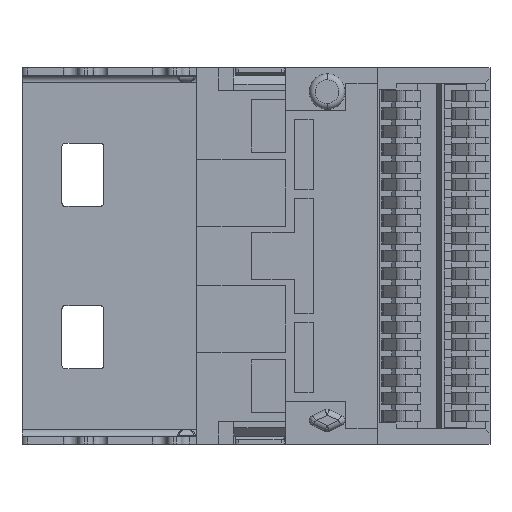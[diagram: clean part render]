
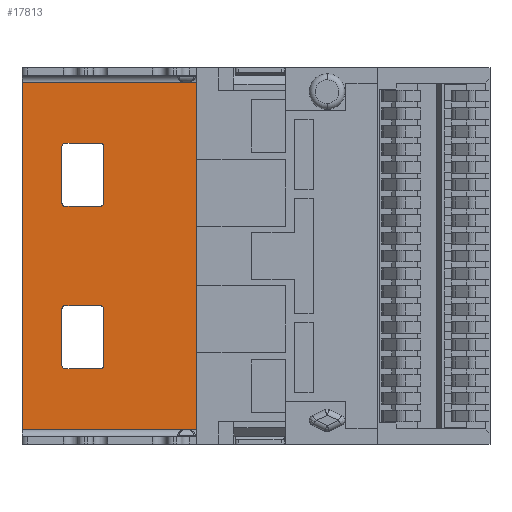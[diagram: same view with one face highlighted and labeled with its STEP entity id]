
A CAD part, front view. The second image highlights one B-rep face of the part: STEP entity #17813.
In plain terms, the highlighted planar face has unit normal (0, -1, 0).
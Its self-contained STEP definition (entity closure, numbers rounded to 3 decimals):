
#641=DIRECTION('',(0.,0.,1.));
#642=VECTOR('',#641,11.7);
#643=CARTESIAN_POINT('',(-5.9,6.35,-5.85));
#644=LINE('',#643,#642);
#645=CARTESIAN_POINT('',(-4.45,6.35,1.775));
#646=DIRECTION('',(0.,-1.,0.));
#647=DIRECTION('',(-1.,0.,0.));
#648=AXIS2_PLACEMENT_3D('',#645,#646,#647);
#650=CARTESIAN_POINT('',(-3.25,6.35,1.775));
#651=DIRECTION('',(0.,-1.,0.));
#652=DIRECTION('',(0.,0.,-1.));
#653=AXIS2_PLACEMENT_3D('',#650,#651,#652);
#655=CARTESIAN_POINT('',(-3.25,6.35,3.705));
#656=DIRECTION('',(0.,-1.,0.));
#657=DIRECTION('',(1.,0.,0.));
#658=AXIS2_PLACEMENT_3D('',#655,#656,#657);
#660=CARTESIAN_POINT('',(-4.45,6.35,3.705));
#661=DIRECTION('',(0.,-1.,0.));
#662=DIRECTION('',(0.,0.,1.));
#663=AXIS2_PLACEMENT_3D('',#660,#661,#662);
#665=CARTESIAN_POINT('',(-3.25,6.35,-1.775));
#666=DIRECTION('',(0.,-1.,0.));
#667=DIRECTION('',(1.,0.,0.));
#668=AXIS2_PLACEMENT_3D('',#665,#666,#667);
#670=CARTESIAN_POINT('',(-4.45,6.35,-1.775));
#671=DIRECTION('',(0.,-1.,0.));
#672=DIRECTION('',(0.,0.,1.));
#673=AXIS2_PLACEMENT_3D('',#670,#671,#672);
#675=CARTESIAN_POINT('',(-4.45,6.35,-3.705));
#676=DIRECTION('',(0.,-1.,0.));
#677=DIRECTION('',(-1.,0.,0.));
#678=AXIS2_PLACEMENT_3D('',#675,#676,#677);
#680=CARTESIAN_POINT('',(-3.25,6.35,-3.705));
#681=DIRECTION('',(0.,-1.,0.));
#682=DIRECTION('',(0.,0.,-1.));
#683=AXIS2_PLACEMENT_3D('',#680,#681,#682);
#721=DIRECTION('',(1.,0.,0.));
#722=VECTOR('',#721,6.05);
#723=CARTESIAN_POINT('',(-5.9,6.35,-5.85));
#724=LINE('',#723,#722);
#1395=DIRECTION('',(-1.,0.,0.));
#1396=VECTOR('',#1395,6.05);
#1397=CARTESIAN_POINT('',(0.15,6.35,5.85));
#1398=LINE('',#1397,#1396);
#2057=DIRECTION('',(0.,0.,1.));
#2058=VECTOR('',#2057,11.7);
#2059=CARTESIAN_POINT('',(0.15,6.35,-5.85));
#2060=LINE('',#2059,#2058);
#13695=DIRECTION('',(1.,0.,0.));
#13696=VECTOR('',#13695,1.2);
#13697=CARTESIAN_POINT('',(-4.45,6.35,3.805));
#13698=LINE('',#13697,#13696);
#13711=DIRECTION('',(0.,0.,1.));
#13712=VECTOR('',#13711,1.93);
#13713=CARTESIAN_POINT('',(-4.55,6.35,1.775));
#13714=LINE('',#13713,#13712);
#13731=DIRECTION('',(-1.,0.,0.));
#13732=VECTOR('',#13731,1.2);
#13733=CARTESIAN_POINT('',(-3.25,6.35,1.675));
#13734=LINE('',#13733,#13732);
#13743=DIRECTION('',(0.,0.,-1.));
#13744=VECTOR('',#13743,1.93);
#13745=CARTESIAN_POINT('',(-3.15,6.35,3.705));
#13746=LINE('',#13745,#13744);
#13759=DIRECTION('',(-1.,0.,0.));
#13760=VECTOR('',#13759,1.2);
#13761=CARTESIAN_POINT('',(-3.25,6.35,-3.805));
#13762=LINE('',#13761,#13760);
#13779=DIRECTION('',(0.,0.,-1.));
#13780=VECTOR('',#13779,1.93);
#13781=CARTESIAN_POINT('',(-3.15,6.35,-1.775));
#13782=LINE('',#13781,#13780);
#13791=DIRECTION('',(1.,0.,0.));
#13792=VECTOR('',#13791,1.2);
#13793=CARTESIAN_POINT('',(-4.45,6.35,-1.675));
#13794=LINE('',#13793,#13792);
#13807=DIRECTION('',(0.,0.,1.));
#13808=VECTOR('',#13807,1.93);
#13809=CARTESIAN_POINT('',(-4.55,6.35,-3.705));
#13810=LINE('',#13809,#13808);
#13815=CARTESIAN_POINT('',(-5.9,6.35,-5.85));
#13816=CARTESIAN_POINT('',(-5.9,6.35,5.85));
#13817=VERTEX_POINT('',#13815);
#13818=VERTEX_POINT('',#13816);
#13819=CARTESIAN_POINT('',(0.15,6.35,5.85));
#13820=VERTEX_POINT('',#13819);
#13821=CARTESIAN_POINT('',(0.15,6.35,-5.85));
#13822=VERTEX_POINT('',#13821);
#13823=CARTESIAN_POINT('',(-4.55,6.35,1.775));
#13824=CARTESIAN_POINT('',(-4.45,6.35,1.675));
#13825=VERTEX_POINT('',#13823);
#13826=VERTEX_POINT('',#13824);
#13827=CARTESIAN_POINT('',(-3.25,6.35,1.675));
#13828=VERTEX_POINT('',#13827);
#13829=CARTESIAN_POINT('',(-3.15,6.35,1.775));
#13830=VERTEX_POINT('',#13829);
#13831=CARTESIAN_POINT('',(-3.15,6.35,3.705));
#13832=VERTEX_POINT('',#13831);
#13833=CARTESIAN_POINT('',(-3.25,6.35,3.805));
#13834=VERTEX_POINT('',#13833);
#13835=CARTESIAN_POINT('',(-4.45,6.35,3.805));
#13836=VERTEX_POINT('',#13835);
#13837=CARTESIAN_POINT('',(-4.55,6.35,3.705));
#13838=VERTEX_POINT('',#13837);
#13839=CARTESIAN_POINT('',(-3.15,6.35,-1.775));
#13840=CARTESIAN_POINT('',(-3.25,6.35,-1.675));
#13841=VERTEX_POINT('',#13839);
#13842=VERTEX_POINT('',#13840);
#13843=CARTESIAN_POINT('',(-4.45,6.35,-1.675));
#13844=VERTEX_POINT('',#13843);
#13845=CARTESIAN_POINT('',(-4.55,6.35,-1.775));
#13846=VERTEX_POINT('',#13845);
#13847=CARTESIAN_POINT('',(-4.55,6.35,-3.705));
#13848=VERTEX_POINT('',#13847);
#13849=CARTESIAN_POINT('',(-4.45,6.35,-3.805));
#13850=VERTEX_POINT('',#13849);
#13851=CARTESIAN_POINT('',(-3.25,6.35,-3.805));
#13852=VERTEX_POINT('',#13851);
#13853=CARTESIAN_POINT('',(-3.15,6.35,-3.705));
#13854=VERTEX_POINT('',#13853);
#17762=CARTESIAN_POINT('',(-2.875,6.35,0.));
#17763=DIRECTION('',(0.,1.,0.));
#17764=DIRECTION('',(0.,0.,-1.));
#17765=AXIS2_PLACEMENT_3D('',#17762,#17763,#17764);
#17766=PLANE('',#17765);
#17768=ORIENTED_EDGE('',*,*,#17767,.T.);
#17770=ORIENTED_EDGE('',*,*,#17769,.F.);
#17772=ORIENTED_EDGE('',*,*,#17771,.F.);
#17774=ORIENTED_EDGE('',*,*,#17773,.F.);
#17775=EDGE_LOOP('',(#17768,#17770,#17772,#17774));
#17776=FACE_OUTER_BOUND('',#17775,.F.);
#17778=ORIENTED_EDGE('',*,*,#17777,.T.);
#17780=ORIENTED_EDGE('',*,*,#17779,.F.);
#17782=ORIENTED_EDGE('',*,*,#17781,.T.);
#17784=ORIENTED_EDGE('',*,*,#17783,.F.);
#17786=ORIENTED_EDGE('',*,*,#17785,.T.);
#17788=ORIENTED_EDGE('',*,*,#17787,.F.);
#17790=ORIENTED_EDGE('',*,*,#17789,.T.);
#17792=ORIENTED_EDGE('',*,*,#17791,.F.);
#17793=EDGE_LOOP('',(#17778,#17780,#17782,#17784,#17786,#17788,#17790,#17792));
#17794=FACE_BOUND('',#17793,.F.);
#17796=ORIENTED_EDGE('',*,*,#17795,.T.);
#17798=ORIENTED_EDGE('',*,*,#17797,.F.);
#17800=ORIENTED_EDGE('',*,*,#17799,.T.);
#17802=ORIENTED_EDGE('',*,*,#17801,.F.);
#17804=ORIENTED_EDGE('',*,*,#17803,.T.);
#17806=ORIENTED_EDGE('',*,*,#17805,.F.);
#17808=ORIENTED_EDGE('',*,*,#17807,.T.);
#17810=ORIENTED_EDGE('',*,*,#17809,.F.);
#17811=EDGE_LOOP('',(#17796,#17798,#17800,#17802,#17804,#17806,#17808,#17810));
#17812=FACE_BOUND('',#17811,.F.);
#649=CIRCLE('',#648,0.1);
#654=CIRCLE('',#653,0.1);
#659=CIRCLE('',#658,0.1);
#664=CIRCLE('',#663,0.1);
#669=CIRCLE('',#668,0.1);
#674=CIRCLE('',#673,0.1);
#679=CIRCLE('',#678,0.1);
#684=CIRCLE('',#683,0.1);
#17767=EDGE_CURVE('',#13817,#13818,#644,.T.);
#17769=EDGE_CURVE('',#13820,#13818,#1398,.T.);
#17771=EDGE_CURVE('',#13822,#13820,#2060,.T.);
#17773=EDGE_CURVE('',#13817,#13822,#724,.T.);
#17777=EDGE_CURVE('',#13825,#13826,#649,.T.);
#17779=EDGE_CURVE('',#13828,#13826,#13734,.T.);
#17781=EDGE_CURVE('',#13828,#13830,#654,.T.);
#17783=EDGE_CURVE('',#13832,#13830,#13746,.T.);
#17785=EDGE_CURVE('',#13832,#13834,#659,.T.);
#17787=EDGE_CURVE('',#13836,#13834,#13698,.T.);
#17789=EDGE_CURVE('',#13836,#13838,#664,.T.);
#17791=EDGE_CURVE('',#13825,#13838,#13714,.T.);
#17795=EDGE_CURVE('',#13841,#13842,#669,.T.);
#17797=EDGE_CURVE('',#13844,#13842,#13794,.T.);
#17799=EDGE_CURVE('',#13844,#13846,#674,.T.);
#17801=EDGE_CURVE('',#13848,#13846,#13810,.T.);
#17803=EDGE_CURVE('',#13848,#13850,#679,.T.);
#17805=EDGE_CURVE('',#13852,#13850,#13762,.T.);
#17807=EDGE_CURVE('',#13852,#13854,#684,.T.);
#17809=EDGE_CURVE('',#13841,#13854,#13782,.T.);
#17813=ADVANCED_FACE('',(#17776,#17794,#17812),#17766,.F.);
